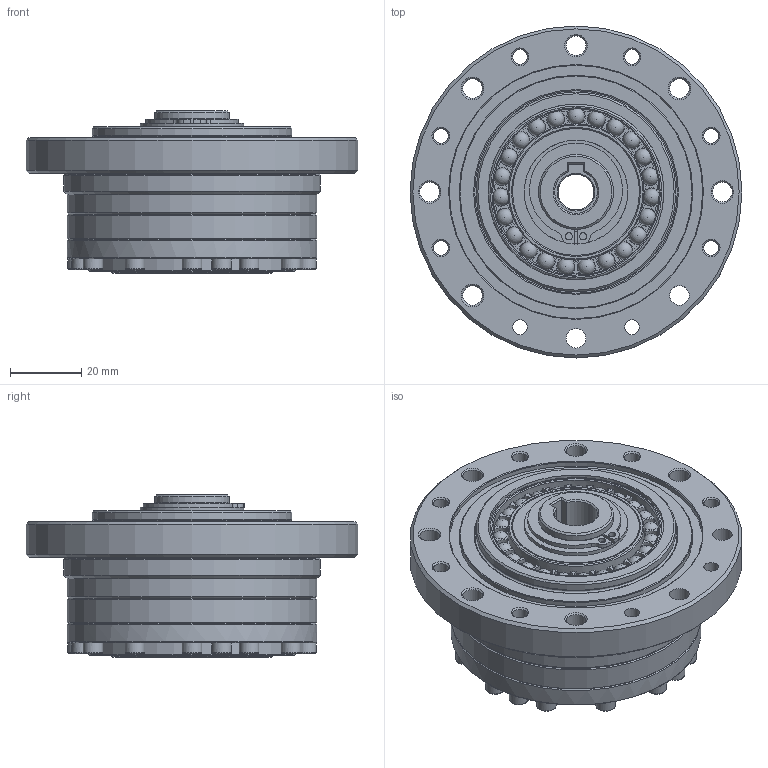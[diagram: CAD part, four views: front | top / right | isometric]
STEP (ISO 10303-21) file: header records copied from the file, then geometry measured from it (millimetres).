
FILE_DESCRIPTION(/* description */ (''),/* implementation_level */ '2;1');
FILE_NAME(/* name */ 'S:\TB00F\研發課二組\機密級\97.\X2\540C4EC151714EAB5340\X0\ (機密級)\H11\欣怡\2023專案追蹤\2.型錄\模型\\X2\5B987DB2\X0\3D檔(NEW)\DGC-PO\DGC-20-XX-PO.stp',/* time_stamp */ '2024-09-13T11:55:33+08:00',/* author */ ('bb1128.zheng'),/* organization */ (''),/* preprocessor_version */ 'ST-DEVELOPER v15.2',/* originating_system */ 'Autodesk Inventor 2014',/* authorisation */ '');
FILE_SCHEMA (('AUTOMOTIVE_DESIGN { 1 0 10303 214 3 1 1 }'));
Length unit declared in the file: centimetre
Products named in the file (1): DGC-20-XX-PO
Bounding box: 93 x 93 x 45.5 mm (x, y, z)
Volume: 151957.5 mm3; surface area: 42249.5 mm2
Topology: 1 solids, 19 shells, 855 faces, 2031 edges, 1259 vertices
Faces by surface type: plane 352, cylinder 237, cone 149, torus 94, sphere 23
Full cylindrical faces by diameter (mm): 2 x2, 2.5 x4, 3 x8, 4.134 x16, 4.917 x8, 5 x8, 5.5 x32, 8.5 x8, 10 x1, 14 x3, 20 x1, 21 x2, 22 x1, 22.1 x1, 29 x1, 34 x1, 35.56 x1, 38.15 x1, 40.2 x1, 43 x1, 45 x1, 46.64 x1, 49.07 x1, 49.12 x1, 56 x1, 58 x1, 65.4 x1, 70 x3, 71 x1, 72 x1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
Entity records: 22344 total; most frequent: CARTESIAN_POINT 3994, DIRECTION 3960, ORIENTED_EDGE 3190, AXIS2_PLACEMENT_3D 1731, EDGE_CURVE 1549, EDGE_LOOP 1278, VERTEX_POINT 1093, CIRCLE 867
